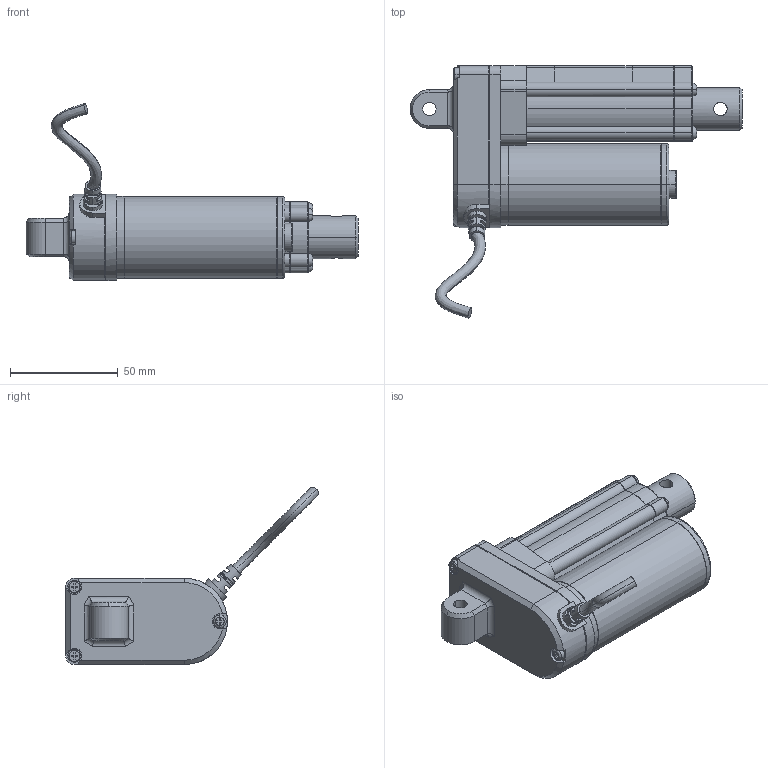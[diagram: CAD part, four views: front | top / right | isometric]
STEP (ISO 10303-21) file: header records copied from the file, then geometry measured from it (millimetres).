
FILE_DESCRIPTION(('STEP AP203'),'1');
FILE_NAME('dj806c130135c0f011r01111111a01230619181108.stp','2025-06-19T18:11:11',('TraceParts'),('TraceParts S.A.'),'Spatial InterOp 3D',' ',' ');
FILE_SCHEMA(('CONFIG_CONTROL_DESIGN'));
Length unit declared in the file: millimetre
Products named in the file (1): 1
Bounding box: 154 x 117.13 x 82.13 mm (x, y, z)
Volume: 250214.9 mm3; surface area: 36614.4 mm2
Topology: 1 solids, 1 shells, 365 faces, 995 edges, 645 vertices
Faces by surface type: plane 194, cylinder 109, bspline 40, cone 14, torus 8
Entity records: 13567 total; most frequent: CARTESIAN_POINT 4670, ORIENTED_EDGE 1982, DIRECTION 1707, EDGE_CURVE 991, VERTEX_POINT 645, AXIS2_PLACEMENT_3D 597, LINE 513, VECTOR 513
